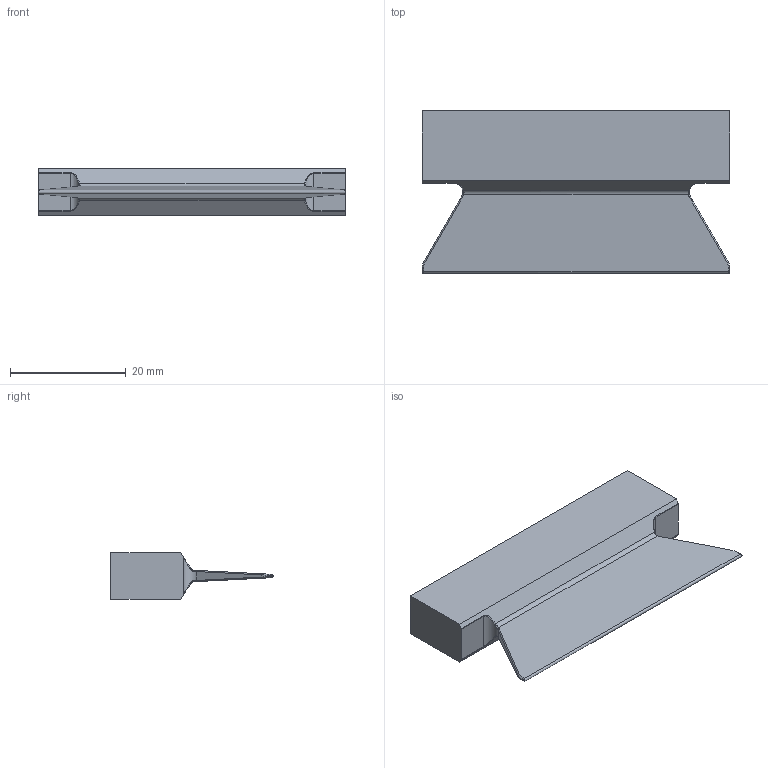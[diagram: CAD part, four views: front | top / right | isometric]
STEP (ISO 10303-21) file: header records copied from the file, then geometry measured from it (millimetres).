
FILE_DESCRIPTION (( 'STEP AP203' ), '1' );
FILE_NAME ('FB-011-02BUA.STEP', '2025-03-24T03:02:07', ( 'Windows 蚚誧' ), ( 'Organization' ), 'SwSTEP 2.0', 'SolidWorks 2020', '' );
FILE_SCHEMA (( 'CONFIG_CONTROL_DESIGN' ));
Length unit declared in the file: millimetre
Products named in the file (1): FB-011-02BUA
Bounding box: 53 x 28 x 8 mm (x, y, z)
Volume: 5913.9 mm3; surface area: 4171.6 mm2
Topology: 1 solids, 1 shells, 75 faces, 183 edges, 104 vertices
Faces by surface type: plane 27, cylinder 20, bspline 16, cone 12
Entity records: 3310 total; most frequent: CARTESIAN_POINT 1709, ORIENTED_EDGE 342, DIRECTION 255, EDGE_CURVE 171, VERTEX_POINT 104, AXIS2_PLACEMENT_3D 86, LINE 83, VECTOR 83
